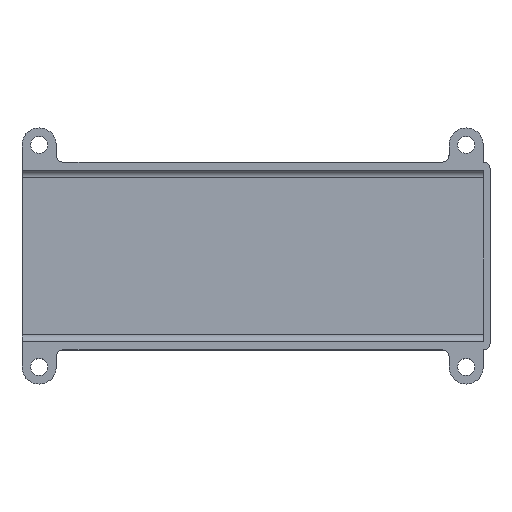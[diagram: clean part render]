
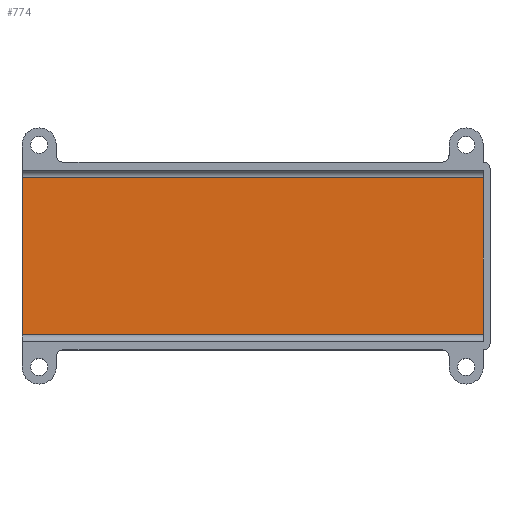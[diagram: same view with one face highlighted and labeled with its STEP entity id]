
A CAD part, top view. The second image highlights one B-rep face of the part: STEP entity #774.
In plain terms, the highlighted planar face has unit normal (0, 0, 1).
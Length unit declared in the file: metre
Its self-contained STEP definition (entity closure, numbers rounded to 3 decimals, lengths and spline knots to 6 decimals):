
#127=ORIENTED_EDGE('',*,*,#339,.T.);
#128=ORIENTED_EDGE('',*,*,#350,.T.);
#129=ORIENTED_EDGE('',*,*,#351,.F.);
#130=ORIENTED_EDGE('',*,*,#352,.T.);
#339=EDGE_CURVE('',#450,#449,#521,.T.);
#350=EDGE_CURVE('',#449,#458,#529,.F.);
#351=EDGE_CURVE('',#459,#458,#530,.T.);
#352=EDGE_CURVE('',#459,#450,#531,.T.);
#449=VERTEX_POINT('',#1231);
#450=VERTEX_POINT('',#1233);
#458=VERTEX_POINT('',#1254);
#459=VERTEX_POINT('',#1256);
#521=LINE('',#1232,#592);
#529=LINE('',#1253,#600);
#530=LINE('',#1255,#601);
#531=LINE('',#1257,#602);
#592=VECTOR('',#964,1.);
#600=VECTOR('',#982,1.);
#601=VECTOR('',#983,1.);
#602=VECTOR('',#984,1.);
#640=EDGE_LOOP('',(#127,#128,#129,#130));
#697=FACE_BOUND('',#640,.T.);
#754=PLANE('',#840);
#774=ADVANCED_FACE('',(#697),#754,.F.);
#840=AXIS2_PLACEMENT_3D('',#1252,#980,#981);
#964=DIRECTION('',(0.,-1.,0.));
#980=DIRECTION('',(0.,0.,-1.));
#981=DIRECTION('',(0.,1.,0.));
#982=DIRECTION('',(-1.,0.,0.));
#983=DIRECTION('',(0.,-1.,0.));
#984=DIRECTION('',(-1.,0.,0.));
#1231=CARTESIAN_POINT('',(-0.0675,-0.0055,-0.028));
#1232=CARTESIAN_POINT('',(-0.0675,0.0175,-0.028));
#1233=CARTESIAN_POINT('',(-0.0675,0.0405,-0.028));
#1252=CARTESIAN_POINT('',(0.067502,0.0175,-0.028));
#1253=CARTESIAN_POINT('',(0.0675,-0.0055,-0.028));
#1254=CARTESIAN_POINT('',(0.0675,-0.0055,-0.028));
#1255=CARTESIAN_POINT('',(0.0675,0.0175,-0.028));
#1256=CARTESIAN_POINT('',(0.0675,0.0405,-0.028));
#1257=CARTESIAN_POINT('',(-0.0675,0.0405,-0.028));
